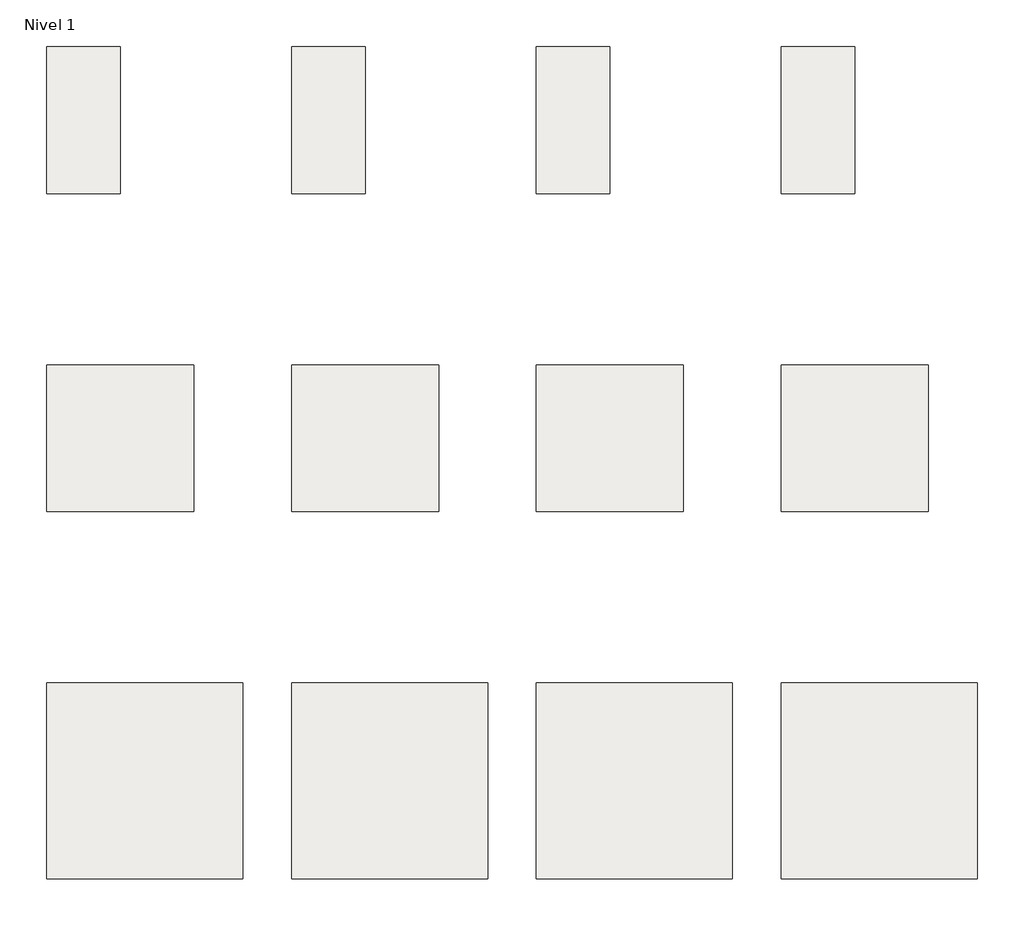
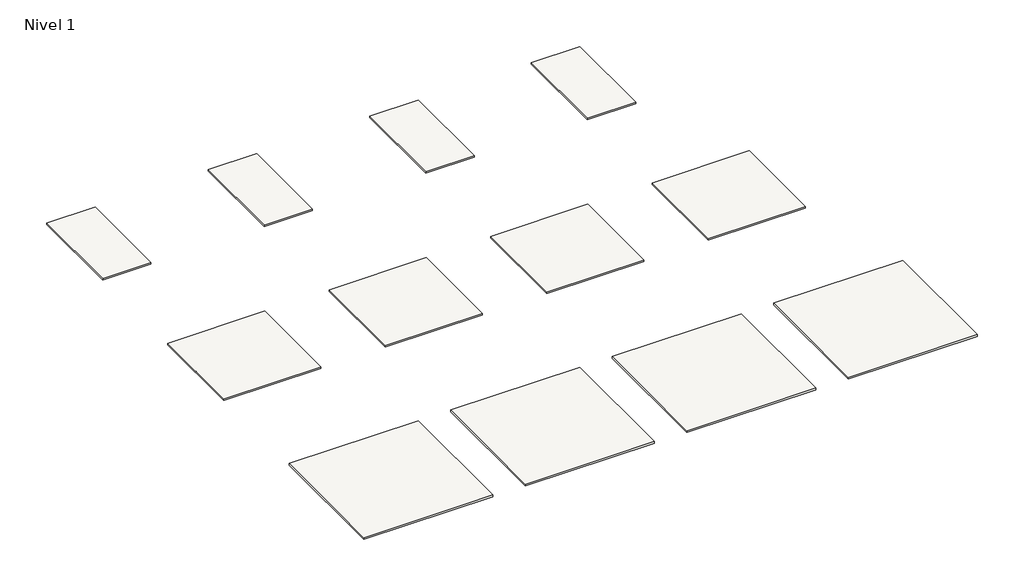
# One storey: 12 slabs.
"""IFC4 building model written with IfcOpenShell, lengths in millimetres."""

from ifc_helpers import new_model, si_unit, frame, origin, place, context, project, spatial, polyline, outline, extrude, element, save

model = new_model("IFC4")

# Units and contexts
model_context = context("Model", 3, world=origin())
ifc_project = project(units=[si_unit("LENGTHUNIT", "METRE", prefix="MILLI")], contexts=[model_context])

# Site, building, storey
site = spatial("IfcSite", under=ifc_project)
building = spatial("IfcBuilding", under=site)
storey = spatial("IfcBuildingStorey", under=building, Name="Nivel 1", Elevation=0.0)

# Slabs
placement = place(None, origin())
element("IfcSlab", 1, ObjectType="Avenue Gris 30X60", at=placement, inside=storey, context=model_context, shape_type="SweptSolid", body=[
    extrude(outline(polyline([(0.0, 900.0), (300.0, 900.0), (300.0, 300.0), (0.0, 300.0), (0.0, 900.0)])), frame((0.0, 0.0, -10.0), z_axis=(0.0, 0.0, 1.0), x_axis=(1.0, 0.0, 0.0)), (0.0, 0.0, 1.0), 10.0),
])
element("IfcSlab", 2, ObjectType="Avenue Blanco 30X60", at=placement, inside=storey, context=model_context, shape_type="SweptSolid", body=[
    extrude(outline(polyline([(1000.0, 900.0), (1300.0, 900.0), (1300.0, 300.0), (1000.0, 300.0), (1000.0, 900.0)])), frame((0.0, 0.0, -10.0), z_axis=(0.0, 0.0, 1.0), x_axis=(1.0, 0.0, 0.0)), (0.0, 0.0, 1.0), 10.0),
])
element("IfcSlab", 3, ObjectType="Avenue Marengo 30X60", at=placement, inside=storey, context=model_context, shape_type="SweptSolid", body=[
    extrude(outline(polyline([(2000.0, 900.0), (2300.0, 900.0), (2300.0, 300.0), (2000.0, 300.0), (2000.0, 900.0)])), frame((0.0, 0.0, -10.0), z_axis=(0.0, 0.0, 1.0), x_axis=(1.0, 0.0, 0.0)), (0.0, 0.0, 1.0), 10.0),
])
element("IfcSlab", 4, ObjectType="Avenue Negro 30X60", at=placement, inside=storey, context=model_context, shape_type="SweptSolid", body=[
    extrude(outline(polyline([(3000.0, 900.0), (3300.0, 900.0), (3300.0, 300.0), (3000.0, 300.0), (3000.0, 900.0)])), frame((0.0, 0.0, -10.0), z_axis=(0.0, 0.0, 1.0), x_axis=(1.0, 0.0, 0.0)), (0.0, 0.0, 1.0), 10.0),
])
element("IfcSlab", 5, ObjectType="Avenue Gris 60X60", at=placement, inside=storey, context=model_context, shape_type="SweptSolid", body=[
    extrude(outline(polyline([(0.0, -400.0), (600.0, -400.0), (600.0, -1000.0), (0.0, -1000.0), (0.0, -400.0)])), frame((0.0, 0.0, -10.0), z_axis=(0.0, 0.0, 1.0), x_axis=(1.0, 0.0, 0.0)), (0.0, 0.0, 1.0), 10.0),
])
element("IfcSlab", 6, ObjectType="Avenue Blanco 60X60", at=placement, inside=storey, context=model_context, shape_type="SweptSolid", body=[
    extrude(outline(polyline([(1000.0, -400.0), (1600.0, -400.0), (1600.0, -1000.0), (1000.0, -1000.0), (1000.0, -400.0)])), frame((0.0, 0.0, -10.0), z_axis=(0.0, 0.0, 1.0), x_axis=(1.0, 0.0, 0.0)), (0.0, 0.0, 1.0), 10.0),
])
element("IfcSlab", 7, ObjectType="Avenue Marengo 60X60", at=placement, inside=storey, context=model_context, shape_type="SweptSolid", body=[
    extrude(outline(polyline([(2000.0, -400.0), (2600.0, -400.0), (2600.0, -1000.0), (2000.0, -1000.0), (2000.0, -400.0)])), frame((0.0, 0.0, -10.0), z_axis=(0.0, 0.0, 1.0), x_axis=(1.0, 0.0, 0.0)), (0.0, 0.0, 1.0), 10.0),
])
element("IfcSlab", 8, ObjectType="Avenue Negro 60X60", at=placement, inside=storey, context=model_context, shape_type="SweptSolid", body=[
    extrude(outline(polyline([(3000.0, -400.0), (3600.0, -400.0), (3600.0, -1000.0), (3000.0, -1000.0), (3000.0, -400.0)])), frame((0.0, 0.0, -10.0), z_axis=(0.0, 0.0, 1.0), x_axis=(1.0, 0.0, 0.0)), (0.0, 0.0, 1.0), 10.0),
])
element("IfcSlab", 9, ObjectType="Avenue Gris 80X80", at=placement, inside=storey, context=model_context, shape_type="SweptSolid", body=[
    extrude(outline(polyline([(0.0, -1700.0), (800.0, -1700.0), (800.0, -2500.0), (0.0, -2500.0), (0.0, -1700.0)])), frame((0.0, 0.0, -11.3), z_axis=(0.0, 0.0, 1.0), x_axis=(1.0, 0.0, 0.0)), (0.0, 0.0, 1.0), 11.3),
])
element("IfcSlab", 10, ObjectType="Avenue Blanco 80X80", at=placement, inside=storey, context=model_context, shape_type="SweptSolid", body=[
    extrude(outline(polyline([(1000.0, -1700.0), (1800.0, -1700.0), (1800.0, -2500.0), (1000.0, -2500.0), (1000.0, -1700.0)])), frame((0.0, 0.0, -11.3), z_axis=(0.0, 0.0, 1.0), x_axis=(1.0, 0.0, 0.0)), (0.0, 0.0, 1.0), 11.3),
])
element("IfcSlab", 11, ObjectType="Avenue Marengo 80X80", at=placement, inside=storey, context=model_context, shape_type="SweptSolid", body=[
    extrude(outline(polyline([(2000.0, -1700.0), (2800.0, -1700.0), (2800.0, -2500.0), (2000.0, -2500.0), (2000.0, -1700.0)])), frame((0.0, 0.0, -11.3), z_axis=(0.0, 0.0, 1.0), x_axis=(1.0, 0.0, 0.0)), (0.0, 0.0, 1.0), 11.3),
])
element("IfcSlab", 12, ObjectType="Avenue Negro 80X80", at=placement, inside=storey, context=model_context, shape_type="SweptSolid", body=[
    extrude(outline(polyline([(3000.0, -1700.0), (3800.0, -1700.0), (3800.0, -2500.0), (3000.0, -2500.0), (3000.0, -1700.0)])), frame((0.0, 0.0, -11.3), z_axis=(0.0, 0.0, 1.0), x_axis=(1.0, 0.0, 0.0)), (0.0, 0.0, 1.0), 11.3),
])

save(model, "model.ifc")
